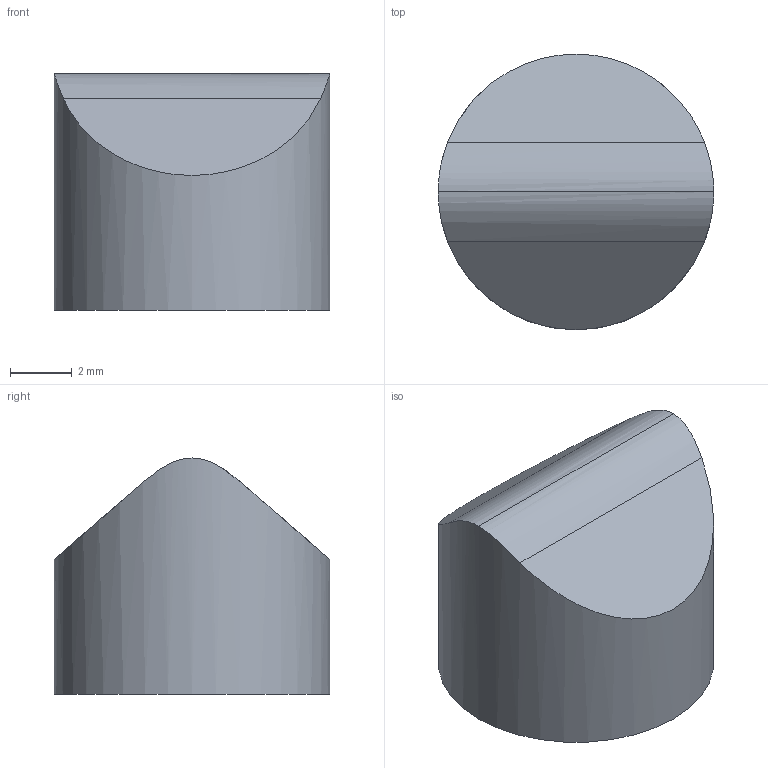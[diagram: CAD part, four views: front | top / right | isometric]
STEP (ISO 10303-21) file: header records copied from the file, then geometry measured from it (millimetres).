
FILE_DESCRIPTION(/* description */ ('Alibre Inc.'),/* implementation_level */ '2;1');
FILE_NAME(/* name */ 'export0',/* time_stamp */ '2011-07-18T15:11:57-04:00',/* author */ (''),/* organization */ (''),/* preprocessor_version */ 'ST-DEVELOPER v12',/* originating_system */ 'Alibre',/* authorisation */ '');
FILE_SCHEMA (('AUTOMOTIVE_DESIGN'));
Length unit declared in the file: centimetre
Bounding box: 8.89 x 8.89 x 7.62 mm (x, y, z)
Volume: 402.7 mm3; surface area: 298.6 mm2
Topology: 1 solids, 1 shells, 6 faces, 11 edges, 7 vertices
Faces by surface type: plane 3, bspline 2, cylinder 1
Full cylindrical faces by diameter (mm): 8.89 x1
Entity records: 201 total; most frequent: CARTESIAN_POINT 81, ORIENTED_EDGE 20, DIRECTION 14, EDGE_CURVE 10, VERTEX_POINT 7, EDGE_LOOP 7, FACE_BOUND 7, AXIS2_PLACEMENT_3D 7
